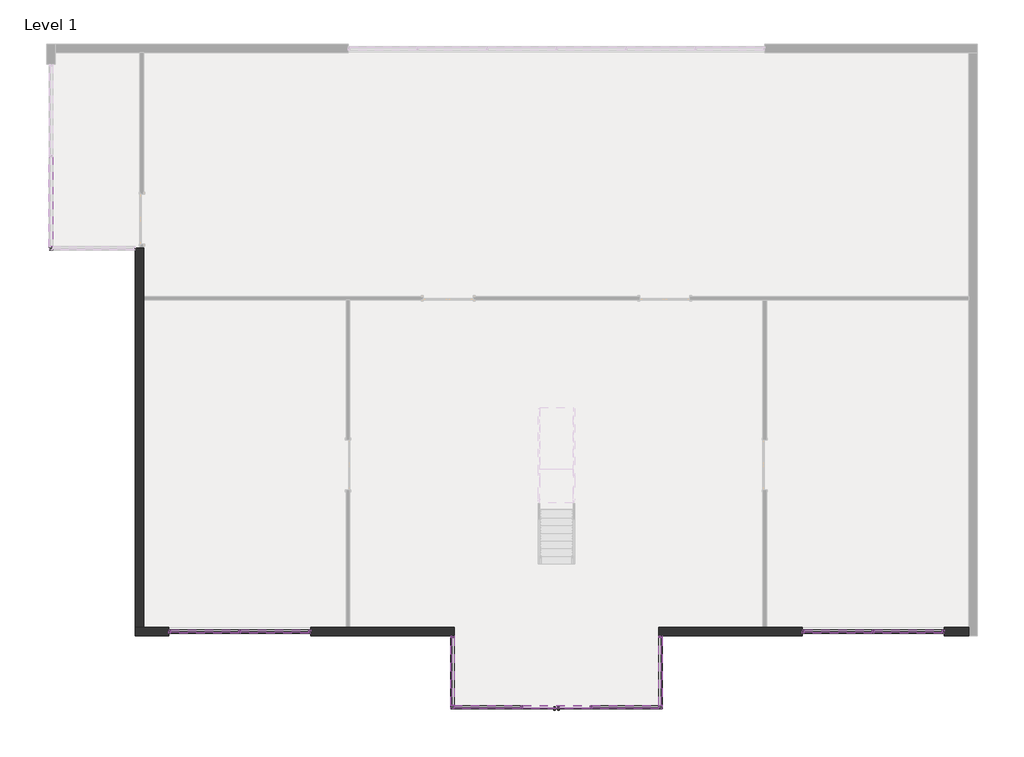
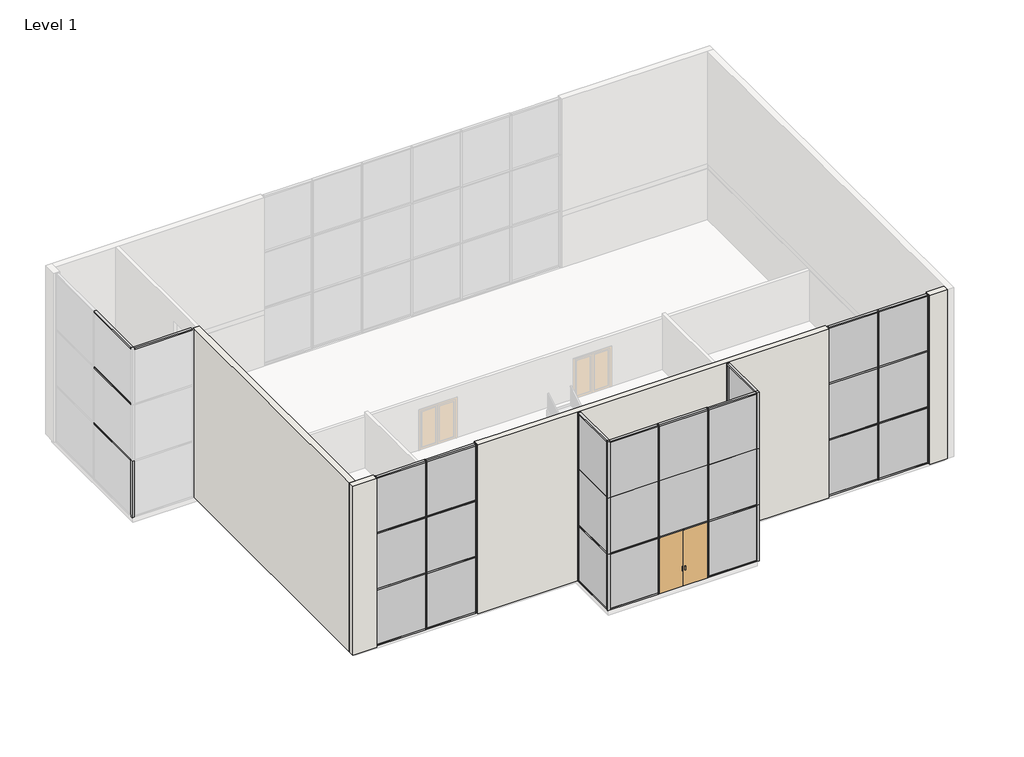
# One storey, part 1 of 3: 71 members, 26 plates, 2 walls, 1 door.
"""IFC4 building model written with IfcOpenShell, lengths in millimetres."""

from ifc_helpers import new_model, si_unit, origin, place, context, project, spatial, faceted_brep, transform, mapped, element, save
from components import m_curtain_wall_dbl_glass_m_curtain_wall_dbl_glass_65589565, member_092dde94, member_3b285806, member_887e70fb, member_3f395ae9, member_eaba9652, member_bd5c9510, member_6d1da0dd, member_11ed7e2d, member_605e1044, member_b6766b59, member_5ef46571, member_2d82c926, member_728bf22d, member_0c17b8a1, system_panel_glazed_dec8f576, system_panel_glazed_a2b5a2cd, system_panel_glazed_4b2e8b6a, system_panel_glazed_935986ee, system_panel_glazed_54eba105, system_panel_glazed_2b873caf, system_panel_glazed_5724f4ed, system_panel_glazed_d0cb5eef, system_panel_glazed_25cc98ba, system_panel_glazed_d8e6d469, system_panel_glazed_b25d086d, system_panel_glazed_057324e0

model = new_model("IFC4")

# Units and contexts
model_context = context("Model", 3, world=origin())
ifc_project = project(units=[si_unit("LENGTHUNIT", "METRE", prefix="MILLI")], contexts=[model_context])

# Site, building, storey
site = spatial("IfcSite", under=ifc_project)
building = spatial("IfcBuilding", under=site)
storey = spatial("IfcBuildingStorey", under=building, Name="Level 1", Elevation=0.0)

# Door
placement = place(None, origin())
m_curtain_wall_dbl_glass_m_curtain_wall_dbl_glass_shape = m_curtain_wall_dbl_glass_m_curtain_wall_dbl_glass_65589565(model_context)
element("IfcDoor", 1, ObjectType="M_Curtain Wall Dbl Glass : M_Curtain Wall Dbl Glass", at=placement, inside=storey, context=model_context, shape_type="MappedRepresentation", body=[
    mapped(m_curtain_wall_dbl_glass_m_curtain_wall_dbl_glass_shape, transform((-3088.917382, -8357.3516396, 0.0), x_axis=(-1.0, 0.0, 0.0), y_axis=(0.0, -1.0, 0.0), z_axis=(0.0, 0.0, 1.0))),
])

# Members
member_shape = member_092dde94(model_context)
element("IfcMember", 2, ObjectType="Quad Corner Mullion : 5\" x 5\" Quad Corner", at=placement, inside=storey, context=model_context, shape_type="MappedRepresentation", body=[
    mapped(member_shape, transform((-6898.917382, -8357.3516396, 0.0), x_axis=(-1.0, 0.0, 0.0), y_axis=(0.0, 1.0, 0.0), z_axis=(0.0, 0.0, -1.0))),
])
element("IfcMember", 3, ObjectType="Quad Corner Mullion : 5\" x 5\" Quad Corner", at=placement, inside=storey, context=model_context, shape_type="MappedRepresentation", body=[
    mapped(member_shape, transform((721.082618, -8357.3516396, 3048.0), x_axis=(1.0, 0.0, 0.0), y_axis=(0.0, 1.0, 0.0), z_axis=(0.0, 0.0, 1.0))),
])
element("IfcMember", 4, ObjectType="Quad Corner Mullion : 5\" x 5\" Quad Corner", at=placement, inside=storey, context=model_context, shape_type="MappedRepresentation", body=[
    mapped(member_shape, transform((-21580.117382, 8438.3983604, 0.0), x_axis=(-1.0, 0.0, 0.0), y_axis=(0.0, 1.0, 0.0), z_axis=(0.0, 0.0, -1.0))),
])
element("IfcMember", 5, ObjectType="Quad Corner Mullion : 5\" x 5\" Quad Corner", at=placement, inside=storey, context=model_context, shape_type="MappedRepresentation", body=[
    mapped(member_shape, transform((721.082618, -8357.3516396, 9144.0), x_axis=(1.0, 0.0, 0.0), y_axis=(0.0, 1.0, 0.0), z_axis=(0.0, 0.0, 1.0))),
])
element("IfcMember", 6, ObjectType="Quad Corner Mullion : 5\" x 5\" Quad Corner", at=placement, inside=storey, context=model_context, shape_type="MappedRepresentation", body=[
    mapped(member_shape, transform((-6898.917382, -8357.3516396, 3048.0), x_axis=(-1.0, 0.0, 0.0), y_axis=(0.0, 1.0, 0.0), z_axis=(0.0, 0.0, -1.0))),
])
element("IfcMember", 7, ObjectType="Quad Corner Mullion : 5\" x 5\" Quad Corner", at=placement, inside=storey, context=model_context, shape_type="MappedRepresentation", body=[
    mapped(member_shape, transform((721.082618, -8357.3516396, 6096.0), x_axis=(1.0, 0.0, 0.0), y_axis=(0.0, 1.0, 0.0), z_axis=(0.0, 0.0, 1.0))),
])
element("IfcMember", 8, ObjectType="Quad Corner Mullion : 5\" x 5\" Quad Corner", at=placement, inside=storey, context=model_context, shape_type="MappedRepresentation", body=[
    mapped(member_shape, transform((-6898.917382, -8357.3516396, 6096.0), x_axis=(-1.0, 0.0, 0.0), y_axis=(0.0, 1.0, 0.0), z_axis=(0.0, 0.0, -1.0))),
])
member_2_shape = member_3b285806(model_context)
element("IfcMember", 9, ObjectType="Rectangular Mullion : 2.5\" x 5\" rectangular", at=placement, inside=storey, context=model_context, shape_type="MappedRepresentation", body=[
    mapped(member_2_shape, transform((-6835.417382, -8357.3516396, 9144.0), x_axis=(0.0, 0.0, 1.0), y_axis=(0.0, 1.0, 0.0), z_axis=(-1.0, 0.0, 0.0))),
])
element("IfcMember", 10, ObjectType="Rectangular Mullion : 2.5\" x 5\" rectangular", at=placement, inside=storey, context=model_context, shape_type="MappedRepresentation", body=[
    mapped(member_2_shape, transform((-1787.1673821, -8357.3516396, 9144.0), x_axis=(0.0, 0.0, 1.0), y_axis=(0.0, 1.0, 0.0), z_axis=(-1.0, 0.0, 0.0))),
])
element("IfcMember", 11, ObjectType="Rectangular Mullion : 2.5\" x 5\" rectangular", at=placement, inside=storey, context=model_context, shape_type="MappedRepresentation", body=[
    mapped(member_2_shape, transform((657.582618, -8357.3516396, 0.0), x_axis=(0.0, 0.0, -1.0), y_axis=(0.0, 1.0, 0.0), z_axis=(1.0, 0.0, 0.0))),
])
element("IfcMember", 12, ObjectType="Rectangular Mullion : 2.5\" x 5\" rectangular", at=placement, inside=storey, context=model_context, shape_type="MappedRepresentation", body=[
    mapped(member_2_shape, transform((-4390.6673819, -8357.3516396, 0.0), x_axis=(0.0, 0.0, -1.0), y_axis=(0.0, 1.0, 0.0), z_axis=(1.0, 0.0, 0.0))),
])
member_3_shape = member_887e70fb(model_context)
element("IfcMember", 13, ObjectType="Rectangular Mullion : 2.5\" x 5\" rectangular", at=placement, inside=storey, context=model_context, shape_type="MappedRepresentation", body=[
    mapped(member_3_shape, transform((-4327.1673819, -8357.3516396, 9144.0), x_axis=(0.0, 0.0, 1.0), y_axis=(0.0, 1.0, 0.0), z_axis=(-1.0, 0.0, 0.0))),
])
member_4_shape = member_3f395ae9(model_context)
element("IfcMember", 14, ObjectType="Rectangular Mullion : 2.5\" x 5\" rectangular", at=placement, inside=storey, context=model_context, shape_type="MappedRepresentation", body=[
    mapped(member_4_shape, transform((-6898.917382, -5737.9766396, 0.0), x_axis=(0.0, 1.0, 0.0), y_axis=(1.0, 0.0, 0.0), z_axis=(0.0, 0.0, -1.0))),
])
element("IfcMember", 15, ObjectType="Rectangular Mullion : 2.5\" x 5\" rectangular", at=placement, inside=storey, context=model_context, shape_type="MappedRepresentation", body=[
    mapped(member_4_shape, transform((-17262.117382, -5582.4016396, 0.0), x_axis=(-1.0, 0.0, 0.0), y_axis=(0.0, 1.0, 0.0), z_axis=(0.0, 0.0, -1.0))),
])
element("IfcMember", 16, ObjectType="Rectangular Mullion : 2.5\" x 5\" rectangular", at=placement, inside=storey, context=model_context, shape_type="MappedRepresentation", body=[
    mapped(member_4_shape, transform((-17262.117382, -5582.4016396, 6096.0), x_axis=(-1.0, 0.0, 0.0), y_axis=(0.0, 1.0, 0.0), z_axis=(0.0, 0.0, -1.0))),
])
member_5_shape = member_eaba9652(model_context)
element("IfcMember", 17, ObjectType="Rectangular Mullion : 2.5\" x 5\" rectangular", at=placement, inside=storey, context=model_context, shape_type="MappedRepresentation", body=[
    mapped(member_5_shape, transform((-1818.9173821, -8357.3516396, 0.0), x_axis=(-1.0, 0.0, 0.0), y_axis=(0.0, 1.0, 0.0), z_axis=(0.0, 0.0, -1.0))),
])
element("IfcMember", 18, ObjectType="Rectangular Mullion : 2.5\" x 5\" rectangular", at=placement, inside=storey, context=model_context, shape_type="MappedRepresentation", body=[
    mapped(member_5_shape, transform((-4358.9173819, -8357.3516396, 0.0), x_axis=(-1.0, 0.0, 0.0), y_axis=(0.0, 1.0, 0.0), z_axis=(0.0, 0.0, -1.0))),
])
element("IfcMember", 19, ObjectType="Rectangular Mullion : 2.5\" x 5\" rectangular", at=placement, inside=storey, context=model_context, shape_type="MappedRepresentation", body=[
    mapped(member_5_shape, transform((-14671.317382, -5582.4016396, 0.0), x_axis=(-1.0, 0.0, 0.0), y_axis=(0.0, 1.0, 0.0), z_axis=(0.0, 0.0, -1.0))),
])
element("IfcMember", 20, ObjectType="Rectangular Mullion : 2.5\" x 5\" rectangular", at=placement, inside=storey, context=model_context, shape_type="MappedRepresentation", body=[
    mapped(member_5_shape, transform((-14671.317382, -5582.4016396, 6096.0), x_axis=(-1.0, 0.0, 0.0), y_axis=(0.0, 1.0, 0.0), z_axis=(0.0, 0.0, -1.0))),
])
member_6_shape = member_bd5c9510(model_context)
element("IfcMember", 21, ObjectType="Rectangular Mullion : 2.5\" x 5\" rectangular", at=placement, inside=storey, context=model_context, shape_type="MappedRepresentation", body=[
    mapped(member_6_shape, transform((-6835.417382, -8357.3516396, 3048.0), x_axis=(0.0, 0.0, 1.0), y_axis=(0.0, 1.0, 0.0), z_axis=(-1.0, 0.0, 0.0))),
])
element("IfcMember", 22, ObjectType="Rectangular Mullion : 2.5\" x 5\" rectangular", at=placement, inside=storey, context=model_context, shape_type="MappedRepresentation", body=[
    mapped(member_6_shape, transform((-1787.1673821, -8357.3516396, 3048.0), x_axis=(0.0, 0.0, 1.0), y_axis=(0.0, 1.0, 0.0), z_axis=(-1.0, 0.0, 0.0))),
])
member_7_shape = member_6d1da0dd(model_context)
element("IfcMember", 23, ObjectType="Rectangular Mullion : 2.5\" x 5\" rectangular", at=placement, inside=storey, context=model_context, shape_type="MappedRepresentation", body=[
    mapped(member_7_shape, transform((-4327.1673819, -8357.3516396, 3048.0), x_axis=(0.0, 0.0, 1.0), y_axis=(0.0, 1.0, 0.0), z_axis=(-1.0, 0.0, 0.0))),
])
element("IfcMember", 24, ObjectType="Rectangular Mullion : 2.5\" x 5\" rectangular", at=placement, inside=storey, context=model_context, shape_type="MappedRepresentation", body=[
    mapped(member_4_shape, transform((-12080.517382, -5582.4016396, 9144.0), x_axis=(1.0, 0.0, 0.0), y_axis=(0.0, 1.0, 0.0), z_axis=(0.0, 0.0, 1.0))),
])
element("IfcMember", 25, ObjectType="Rectangular Mullion : 2.5\" x 5\" rectangular", at=placement, inside=storey, context=model_context, shape_type="MappedRepresentation", body=[
    mapped(member_4_shape, transform((721.082618, -5737.9766396, 3048.0), x_axis=(0.0, 1.0, 0.0), y_axis=(-1.0, 0.0, 0.0), z_axis=(0.0, 0.0, 1.0))),
])
element("IfcMember", 26, ObjectType="Rectangular Mullion : 2.5\" x 5\" rectangular", at=placement, inside=storey, context=model_context, shape_type="MappedRepresentation", body=[
    mapped(member_4_shape, transform((-12080.517382, -5582.4016396, 3048.0), x_axis=(1.0, 0.0, 0.0), y_axis=(0.0, 1.0, 0.0), z_axis=(0.0, 0.0, 1.0))),
])
element("IfcMember", 27, ObjectType="Rectangular Mullion : 2.5\" x 5\" rectangular", at=placement, inside=storey, context=model_context, shape_type="MappedRepresentation", body=[
    mapped(member_5_shape, transform((8493.482618, -5582.4016396, 0.0), x_axis=(1.0, 0.0, 0.0), y_axis=(0.0, -1.0, 0.0), z_axis=(0.0, 0.0, -1.0))),
])
element("IfcMember", 28, ObjectType="Rectangular Mullion : 2.5\" x 5\" rectangular", at=placement, inside=storey, context=model_context, shape_type="MappedRepresentation", body=[
    mapped(member_5_shape, transform((8493.482618, -5582.4016396, 3048.0), x_axis=(1.0, 0.0, 0.0), y_axis=(0.0, -1.0, 0.0), z_axis=(0.0, 0.0, -1.0))),
])
element("IfcMember", 29, ObjectType="Rectangular Mullion : 2.5\" x 5\" rectangular", at=placement, inside=storey, context=model_context, shape_type="MappedRepresentation", body=[
    mapped(member_5_shape, transform((8493.482618, -5582.4016396, 6096.0), x_axis=(1.0, 0.0, 0.0), y_axis=(0.0, -1.0, 0.0), z_axis=(0.0, 0.0, -1.0))),
])
element("IfcMember", 30, ObjectType="Rectangular Mullion : 2.5\" x 5\" rectangular", at=placement, inside=storey, context=model_context, shape_type="MappedRepresentation", body=[
    mapped(member_4_shape, transform((5902.682618, -5582.4016396, 9144.0), x_axis=(-1.0, 0.0, 0.0), y_axis=(0.0, -1.0, 0.0), z_axis=(0.0, 0.0, 1.0))),
])
element("IfcMember", 31, ObjectType="Rectangular Mullion : 2.5\" x 5\" rectangular", at=placement, inside=storey, context=model_context, shape_type="MappedRepresentation", body=[
    mapped(member_4_shape, transform((11084.282618, -5582.4016396, 0.0), x_axis=(1.0, 0.0, 0.0), y_axis=(0.0, -1.0, 0.0), z_axis=(0.0, 0.0, -1.0))),
])
element("IfcMember", 32, ObjectType="Rectangular Mullion : 2.5\" x 5\" rectangular", at=placement, inside=storey, context=model_context, shape_type="MappedRepresentation", body=[
    mapped(member_4_shape, transform((11084.282618, -5582.4016396, 3048.0), x_axis=(1.0, 0.0, 0.0), y_axis=(0.0, -1.0, 0.0), z_axis=(0.0, 0.0, -1.0))),
])
element("IfcMember", 33, ObjectType="Rectangular Mullion : 2.5\" x 5\" rectangular", at=placement, inside=storey, context=model_context, shape_type="MappedRepresentation", body=[
    mapped(member_4_shape, transform((11084.282618, -5582.4016396, 6096.0), x_axis=(1.0, 0.0, 0.0), y_axis=(0.0, -1.0, 0.0), z_axis=(0.0, 0.0, -1.0))),
])
element("IfcMember", 34, ObjectType="Rectangular Mullion : 2.5\" x 5\" rectangular", at=placement, inside=storey, context=model_context, shape_type="MappedRepresentation", body=[
    mapped(member_4_shape, transform((5902.682618, -5582.4016396, 3048.0), x_axis=(-1.0, 0.0, 0.0), y_axis=(0.0, -1.0, 0.0), z_axis=(0.0, 0.0, 1.0))),
])
element("IfcMember", 35, ObjectType="Rectangular Mullion : 2.5\" x 5\" rectangular", at=placement, inside=storey, context=model_context, shape_type="MappedRepresentation", body=[
    mapped(member_4_shape, transform((5902.682618, -5582.4016396, 6096.0), x_axis=(-1.0, 0.0, 0.0), y_axis=(0.0, -1.0, 0.0), z_axis=(0.0, 0.0, 1.0))),
])
member_8_shape = member_11ed7e2d(model_context)
element("IfcMember", 36, ObjectType="Rectangular Mullion : 2.5\" x 5\" rectangular", at=placement, inside=storey, context=model_context, shape_type="MappedRepresentation", body=[
    mapped(member_8_shape, transform((-6898.917382, -5801.4766396, 9144.0), x_axis=(0.0, 0.0, 1.0), y_axis=(1.0, 0.0, 0.0), z_axis=(0.0, 1.0, 0.0))),
])
element("IfcMember", 37, ObjectType="Rectangular Mullion : 2.5\" x 5\" rectangular", at=placement, inside=storey, context=model_context, shape_type="MappedRepresentation", body=[
    mapped(member_8_shape, transform((721.082618, -8293.8516396, 9144.0), x_axis=(0.0, 0.0, 1.0), y_axis=(-1.0, 0.0, 0.0), z_axis=(0.0, -1.0, 0.0))),
])
element("IfcMember", 38, ObjectType="Rectangular Mullion : 2.5\" x 5\" rectangular", at=placement, inside=storey, context=model_context, shape_type="MappedRepresentation", body=[
    mapped(member_8_shape, transform((-6898.917382, -8293.8516396, 0.0), x_axis=(0.0, 0.0, -1.0), y_axis=(1.0, 0.0, 0.0), z_axis=(0.0, -1.0, 0.0))),
])
element("IfcMember", 39, ObjectType="Rectangular Mullion : 2.5\" x 5\" rectangular", at=placement, inside=storey, context=model_context, shape_type="MappedRepresentation", body=[
    mapped(member_8_shape, transform((721.082618, -5801.4766396, 0.0), x_axis=(0.0, 0.0, -1.0), y_axis=(-1.0, 0.0, 0.0), z_axis=(0.0, 1.0, 0.0))),
])
member_9_shape = member_605e1044(model_context)
element("IfcMember", 40, ObjectType="Rectangular Mullion : 2.5\" x 5\" rectangular", at=placement, inside=storey, context=model_context, shape_type="MappedRepresentation", body=[
    mapped(member_9_shape, transform((-6898.917382, -5801.4766396, 3048.0), x_axis=(0.0, 0.0, 1.0), y_axis=(1.0, 0.0, 0.0), z_axis=(0.0, 1.0, 0.0))),
])
element("IfcMember", 41, ObjectType="Rectangular Mullion : 2.5\" x 5\" rectangular", at=placement, inside=storey, context=model_context, shape_type="MappedRepresentation", body=[
    mapped(member_9_shape, transform((721.082618, -8293.8516396, 3048.0), x_axis=(0.0, 0.0, 1.0), y_axis=(-1.0, 0.0, 0.0), z_axis=(0.0, -1.0, 0.0))),
])
member_10_shape = member_b6766b59(model_context)
element("IfcMember", 42, ObjectType="Rectangular Mullion : 2.5\" x 5\" rectangular", at=placement, inside=storey, context=model_context, shape_type="MappedRepresentation", body=[
    mapped(member_10_shape, transform((-17198.617382, -5582.4016396, 9144.0), x_axis=(0.0, 0.0, 1.0), y_axis=(0.0, 1.0, 0.0), z_axis=(-1.0, 0.0, 0.0))),
])
element("IfcMember", 43, ObjectType="Rectangular Mullion : 2.5\" x 5\" rectangular", at=placement, inside=storey, context=model_context, shape_type="MappedRepresentation", body=[
    mapped(member_10_shape, transform((-14639.567382, -5582.4016396, 9144.0), x_axis=(0.0, 0.0, 1.0), y_axis=(0.0, 1.0, 0.0), z_axis=(-1.0, 0.0, 0.0))),
])
element("IfcMember", 44, ObjectType="Rectangular Mullion : 2.5\" x 5\" rectangular", at=placement, inside=storey, context=model_context, shape_type="MappedRepresentation", body=[
    mapped(member_10_shape, transform((-12144.017382, -5582.4016396, 0.0), x_axis=(0.0, 0.0, -1.0), y_axis=(0.0, 1.0, 0.0), z_axis=(1.0, 0.0, 0.0))),
])
element("IfcMember", 45, ObjectType="Rectangular Mullion : 2.5\" x 5\" rectangular", at=placement, inside=storey, context=model_context, shape_type="MappedRepresentation", body=[
    mapped(member_10_shape, transform((-14703.067382, -5582.4016396, 0.0), x_axis=(0.0, 0.0, -1.0), y_axis=(0.0, 1.0, 0.0), z_axis=(1.0, 0.0, 0.0))),
])
member_11_shape = member_5ef46571(model_context)
element("IfcMember", 46, ObjectType="Rectangular Mullion : 2.5\" x 5\" rectangular", at=placement, inside=storey, context=model_context, shape_type="MappedRepresentation", body=[
    mapped(member_11_shape, transform((-14639.567382, -5582.4016396, 3048.0), x_axis=(0.0, 0.0, 1.0), y_axis=(0.0, 1.0, 0.0), z_axis=(-1.0, 0.0, 0.0))),
])
element("IfcMember", 47, ObjectType="Rectangular Mullion : 2.5\" x 5\" rectangular", at=placement, inside=storey, context=model_context, shape_type="MappedRepresentation", body=[
    mapped(member_11_shape, transform((-17198.617382, -5582.4016396, 3048.0), x_axis=(0.0, 0.0, 1.0), y_axis=(0.0, 1.0, 0.0), z_axis=(-1.0, 0.0, 0.0))),
])
element("IfcMember", 48, ObjectType="Rectangular Mullion : 2.5\" x 5\" rectangular", at=placement, inside=storey, context=model_context, shape_type="MappedRepresentation", body=[
    mapped(member_11_shape, transform((-14639.567382, -5582.4016396, 6096.0), x_axis=(0.0, 0.0, 1.0), y_axis=(0.0, 1.0, 0.0), z_axis=(-1.0, 0.0, 0.0))),
])
element("IfcMember", 49, ObjectType="Rectangular Mullion : 2.5\" x 5\" rectangular", at=placement, inside=storey, context=model_context, shape_type="MappedRepresentation", body=[
    mapped(member_11_shape, transform((-17198.617382, -5582.4016396, 6096.0), x_axis=(0.0, 0.0, 1.0), y_axis=(0.0, 1.0, 0.0), z_axis=(-1.0, 0.0, 0.0))),
])
element("IfcMember", 50, ObjectType="Rectangular Mullion : 2.5\" x 5\" rectangular", at=placement, inside=storey, context=model_context, shape_type="MappedRepresentation", body=[
    mapped(member_5_shape, transform((-14671.317382, -5582.4016396, 3048.0), x_axis=(-1.0, 0.0, 0.0), y_axis=(0.0, 1.0, 0.0), z_axis=(0.0, 0.0, -1.0))),
])
element("IfcMember", 51, ObjectType="Rectangular Mullion : 2.5\" x 5\" rectangular", at=placement, inside=storey, context=model_context, shape_type="MappedRepresentation", body=[
    mapped(member_4_shape, transform((-17262.117382, -5582.4016396, 3048.0), x_axis=(-1.0, 0.0, 0.0), y_axis=(0.0, 1.0, 0.0), z_axis=(0.0, 0.0, -1.0))),
])
element("IfcMember", 52, ObjectType="Rectangular Mullion : 2.5\" x 5\" rectangular", at=placement, inside=storey, context=model_context, shape_type="MappedRepresentation", body=[
    mapped(member_4_shape, transform((-12080.517382, -5582.4016396, 6096.0), x_axis=(1.0, 0.0, 0.0), y_axis=(0.0, 1.0, 0.0), z_axis=(0.0, 0.0, 1.0))),
])
element("IfcMember", 53, ObjectType="Rectangular Mullion : 2.5\" x 5\" rectangular", at=placement, inside=storey, context=model_context, shape_type="MappedRepresentation", body=[
    mapped(member_10_shape, transform((11020.782618, -5582.4016396, 9144.0), x_axis=(0.0, 0.0, 1.0), y_axis=(0.0, -1.0, 0.0), z_axis=(1.0, 0.0, 0.0))),
])
element("IfcMember", 54, ObjectType="Rectangular Mullion : 2.5\" x 5\" rectangular", at=placement, inside=storey, context=model_context, shape_type="MappedRepresentation", body=[
    mapped(member_10_shape, transform((8461.732618, -5582.4016396, 9144.0), x_axis=(0.0, 0.0, 1.0), y_axis=(0.0, -1.0, 0.0), z_axis=(1.0, 0.0, 0.0))),
])
element("IfcMember", 55, ObjectType="Rectangular Mullion : 2.5\" x 5\" rectangular", at=placement, inside=storey, context=model_context, shape_type="MappedRepresentation", body=[
    mapped(member_10_shape, transform((5966.182618, -5582.4016396, 0.0), x_axis=(0.0, 0.0, -1.0), y_axis=(0.0, -1.0, 0.0), z_axis=(-1.0, 0.0, 0.0))),
])
element("IfcMember", 56, ObjectType="Rectangular Mullion : 2.5\" x 5\" rectangular", at=placement, inside=storey, context=model_context, shape_type="MappedRepresentation", body=[
    mapped(member_10_shape, transform((8525.232618, -5582.4016396, 0.0), x_axis=(0.0, 0.0, -1.0), y_axis=(0.0, -1.0, 0.0), z_axis=(-1.0, 0.0, 0.0))),
])
element("IfcMember", 57, ObjectType="Rectangular Mullion : 2.5\" x 5\" rectangular", at=placement, inside=storey, context=model_context, shape_type="MappedRepresentation", body=[
    mapped(member_11_shape, transform((8461.732618, -5582.4016396, 3048.0), x_axis=(0.0, 0.0, 1.0), y_axis=(0.0, -1.0, 0.0), z_axis=(1.0, 0.0, 0.0))),
])
element("IfcMember", 58, ObjectType="Rectangular Mullion : 2.5\" x 5\" rectangular", at=placement, inside=storey, context=model_context, shape_type="MappedRepresentation", body=[
    mapped(member_11_shape, transform((11020.782618, -5582.4016396, 3048.0), x_axis=(0.0, 0.0, 1.0), y_axis=(0.0, -1.0, 0.0), z_axis=(1.0, 0.0, 0.0))),
])
element("IfcMember", 59, ObjectType="Rectangular Mullion : 2.5\" x 5\" rectangular", at=placement, inside=storey, context=model_context, shape_type="MappedRepresentation", body=[
    mapped(member_11_shape, transform((8461.732618, -5582.4016396, 6096.0), x_axis=(0.0, 0.0, 1.0), y_axis=(0.0, -1.0, 0.0), z_axis=(1.0, 0.0, 0.0))),
])
element("IfcMember", 60, ObjectType="Rectangular Mullion : 2.5\" x 5\" rectangular", at=placement, inside=storey, context=model_context, shape_type="MappedRepresentation", body=[
    mapped(member_11_shape, transform((11020.782618, -5582.4016396, 6096.0), x_axis=(0.0, 0.0, 1.0), y_axis=(0.0, -1.0, 0.0), z_axis=(1.0, 0.0, 0.0))),
])
member_12_shape = member_2d82c926(model_context)
element("IfcMember", 61, ObjectType="Rectangular Mullion : 2.5\" x 5\" rectangular", at=placement, inside=storey, context=model_context, shape_type="MappedRepresentation", body=[
    mapped(member_12_shape, transform((-21580.117382, 8501.8983604, 9144.0), x_axis=(0.0, 0.0, 1.0), y_axis=(-1.0, 0.0, 0.0), z_axis=(0.0, -1.0, 0.0))),
])
member_13_shape = member_728bf22d(model_context)
element("IfcMember", 62, ObjectType="Rectangular Mullion : 2.5\" x 5\" rectangular", at=placement, inside=storey, context=model_context, shape_type="MappedRepresentation", body=[
    mapped(member_13_shape, transform((-21580.117382, 8501.8983604, 3048.0), x_axis=(0.0, 0.0, 1.0), y_axis=(-1.0, 0.0, 0.0), z_axis=(0.0, -1.0, 0.0))),
])
element("IfcMember", 63, ObjectType="Rectangular Mullion : 2.5\" x 5\" rectangular", at=placement, inside=storey, context=model_context, shape_type="MappedRepresentation", body=[
    mapped(member_13_shape, transform((-21580.117382, 8501.8983604, 6096.0), x_axis=(0.0, 0.0, 1.0), y_axis=(-1.0, 0.0, 0.0), z_axis=(0.0, -1.0, 0.0))),
])
member_14_shape = member_0c17b8a1(model_context)
element("IfcMember", 64, ObjectType="Rectangular Mullion : 2.5\" x 5\" rectangular", at=placement, inside=storey, context=model_context, shape_type="MappedRepresentation", body=[
    mapped(member_14_shape, transform((-21516.617382, 8438.3983604, 9144.0), x_axis=(0.0, 0.0, 1.0), y_axis=(0.0, 1.0, 0.0), z_axis=(-1.0, 0.0, 0.0))),
])
element("IfcMember", 65, ObjectType="Rectangular Mullion : 2.5\" x 5\" rectangular", at=placement, inside=storey, context=model_context, shape_type="MappedRepresentation", body=[
    mapped(member_5_shape, transform((-1818.9173821, -8357.3516396, 3048.0), x_axis=(-1.0, 0.0, 0.0), y_axis=(0.0, 1.0, 0.0), z_axis=(0.0, 0.0, -1.0))),
])
element("IfcMember", 66, ObjectType="Rectangular Mullion : 2.5\" x 5\" rectangular", at=placement, inside=storey, context=model_context, shape_type="MappedRepresentation", body=[
    mapped(member_5_shape, transform((-4358.9173819, -8357.3516396, 3048.0), x_axis=(-1.0, 0.0, 0.0), y_axis=(0.0, 1.0, 0.0), z_axis=(0.0, 0.0, -1.0))),
])
element("IfcMember", 67, ObjectType="Rectangular Mullion : 2.5\" x 5\" rectangular", at=placement, inside=storey, context=model_context, shape_type="MappedRepresentation", body=[
    mapped(member_5_shape, transform((-1818.9173821, -8357.3516396, 6096.0), x_axis=(-1.0, 0.0, 0.0), y_axis=(0.0, 1.0, 0.0), z_axis=(0.0, 0.0, -1.0))),
])
element("IfcMember", 68, ObjectType="Rectangular Mullion : 2.5\" x 5\" rectangular", at=placement, inside=storey, context=model_context, shape_type="MappedRepresentation", body=[
    mapped(member_5_shape, transform((-4358.9173819, -8357.3516396, 6096.0), x_axis=(-1.0, 0.0, 0.0), y_axis=(0.0, 1.0, 0.0), z_axis=(0.0, 0.0, -1.0))),
])
element("IfcMember", 69, ObjectType="Rectangular Mullion : 2.5\" x 5\" rectangular", at=placement, inside=storey, context=model_context, shape_type="MappedRepresentation", body=[
    mapped(member_4_shape, transform((721.082618, -5737.9766396, 9144.0), x_axis=(0.0, 1.0, 0.0), y_axis=(-1.0, 0.0, 0.0), z_axis=(0.0, 0.0, 1.0))),
])
element("IfcMember", 70, ObjectType="Rectangular Mullion : 2.5\" x 5\" rectangular", at=placement, inside=storey, context=model_context, shape_type="MappedRepresentation", body=[
    mapped(member_4_shape, transform((-6898.917382, -5737.9766396, 3048.0), x_axis=(0.0, 1.0, 0.0), y_axis=(1.0, 0.0, 0.0), z_axis=(0.0, 0.0, -1.0))),
])
element("IfcMember", 71, ObjectType="Rectangular Mullion : 2.5\" x 5\" rectangular", at=placement, inside=storey, context=model_context, shape_type="MappedRepresentation", body=[
    mapped(member_4_shape, transform((721.082618, -5737.9766396, 6096.0), x_axis=(0.0, 1.0, 0.0), y_axis=(-1.0, 0.0, 0.0), z_axis=(0.0, 0.0, 1.0))),
])
element("IfcMember", 72, ObjectType="Rectangular Mullion : 2.5\" x 5\" rectangular", at=placement, inside=storey, context=model_context, shape_type="MappedRepresentation", body=[
    mapped(member_4_shape, transform((-6898.917382, -5737.9766396, 6096.0), x_axis=(0.0, 1.0, 0.0), y_axis=(1.0, 0.0, 0.0), z_axis=(0.0, 0.0, -1.0))),
])

# Plates
system_panel_glazed_shape = system_panel_glazed_dec8f576(model_context)
element("IfcPlate", 73, ObjectType="System Panel : Glazed", at=placement, inside=storey, context=model_context, shape_type="MappedRepresentation", body=[
    mapped(system_panel_glazed_shape, transform((-564.792382, -8357.3516396, 63.5), x_axis=(-1.0, 0.0, 0.0), y_axis=(0.0, -1.0, 0.0), z_axis=(0.0, 0.0, 1.0))),
])
element("IfcPlate", 74, ObjectType="System Panel : Glazed", at=placement, inside=storey, context=model_context, shape_type="MappedRepresentation", body=[
    mapped(system_panel_glazed_shape, transform((-5613.0423819, -8357.3516396, 63.5), x_axis=(-1.0, 0.0, 0.0), y_axis=(0.0, -1.0, 0.0), z_axis=(0.0, 0.0, 1.0))),
])
system_panel_glazed_2_shape = system_panel_glazed_a2b5a2cd(model_context)
element("IfcPlate", 75, ObjectType="System Panel : Glazed", at=placement, inside=storey, context=model_context, shape_type="MappedRepresentation", body=[
    mapped(system_panel_glazed_2_shape, transform((721.082618, -7047.6641396, 63.5), x_axis=(0.0, -1.0, 0.0), y_axis=(1.0, 0.0, 0.0), z_axis=(0.0, 0.0, 1.0))),
])
element("IfcPlate", 76, ObjectType="System Panel : Glazed", at=placement, inside=storey, context=model_context, shape_type="MappedRepresentation", body=[
    mapped(system_panel_glazed_2_shape, transform((-6898.917382, -7047.6641396, 63.5), x_axis=(0.0, 1.0, 0.0), y_axis=(-1.0, 0.0, 0.0), z_axis=(0.0, 0.0, 1.0))),
])
system_panel_glazed_3_shape = system_panel_glazed_4b2e8b6a(model_context)
element("IfcPlate", 77, ObjectType="System Panel : Glazed", at=placement, inside=storey, context=model_context, shape_type="MappedRepresentation", body=[
    mapped(system_panel_glazed_3_shape, transform((-13391.792382, -5582.4016396, 63.5), x_axis=(-1.0, 0.0, 0.0), y_axis=(0.0, -1.0, 0.0), z_axis=(0.0, 0.0, 1.0))),
])
element("IfcPlate", 78, ObjectType="System Panel : Glazed", at=placement, inside=storey, context=model_context, shape_type="MappedRepresentation", body=[
    mapped(system_panel_glazed_3_shape, transform((-15950.842382, -5582.4016396, 63.5), x_axis=(-1.0, 0.0, 0.0), y_axis=(0.0, -1.0, 0.0), z_axis=(0.0, 0.0, 1.0))),
])
element("IfcPlate", 79, ObjectType="System Panel : Glazed", at=placement, inside=storey, context=model_context, shape_type="MappedRepresentation", body=[
    mapped(system_panel_glazed_3_shape, transform((-13391.792382, -5582.4016396, 6127.75), x_axis=(-1.0, 0.0, 0.0), y_axis=(0.0, -1.0, 0.0), z_axis=(0.0, 0.0, 1.0))),
])
element("IfcPlate", 80, ObjectType="System Panel : Glazed", at=placement, inside=storey, context=model_context, shape_type="MappedRepresentation", body=[
    mapped(system_panel_glazed_3_shape, transform((-15950.842382, -5582.4016396, 6127.75), x_axis=(-1.0, 0.0, 0.0), y_axis=(0.0, -1.0, 0.0), z_axis=(0.0, 0.0, 1.0))),
])
system_panel_glazed_4_shape = system_panel_glazed_935986ee(model_context)
element("IfcPlate", 81, ObjectType="System Panel : Glazed", at=placement, inside=storey, context=model_context, shape_type="MappedRepresentation", body=[
    mapped(system_panel_glazed_4_shape, transform((-13391.792382, -5582.4016396, 3079.75), x_axis=(-1.0, 0.0, 0.0), y_axis=(0.0, -1.0, 0.0), z_axis=(0.0, 0.0, 1.0))),
])
element("IfcPlate", 82, ObjectType="System Panel : Glazed", at=placement, inside=storey, context=model_context, shape_type="MappedRepresentation", body=[
    mapped(system_panel_glazed_4_shape, transform((-15950.842382, -5582.4016396, 3079.75), x_axis=(-1.0, 0.0, 0.0), y_axis=(0.0, -1.0, 0.0), z_axis=(0.0, 0.0, 1.0))),
])
system_panel_glazed_5_shape = system_panel_glazed_54eba105(model_context)
element("IfcPlate", 83, ObjectType="System Panel : Glazed", at=placement, inside=storey, context=model_context, shape_type="MappedRepresentation", body=[
    mapped(system_panel_glazed_5_shape, transform((7213.957618, -5582.4016396, 63.5), x_axis=(1.0, 0.0, 0.0), y_axis=(0.0, 1.0, 0.0), z_axis=(0.0, 0.0, 1.0))),
])
element("IfcPlate", 84, ObjectType="System Panel : Glazed", at=placement, inside=storey, context=model_context, shape_type="MappedRepresentation", body=[
    mapped(system_panel_glazed_5_shape, transform((9773.007618, -5582.4016396, 63.5), x_axis=(1.0, 0.0, 0.0), y_axis=(0.0, 1.0, 0.0), z_axis=(0.0, 0.0, 1.0))),
])
element("IfcPlate", 85, ObjectType="System Panel : Glazed", at=placement, inside=storey, context=model_context, shape_type="MappedRepresentation", body=[
    mapped(system_panel_glazed_5_shape, transform((7213.957618, -5582.4016396, 6127.75), x_axis=(1.0, 0.0, 0.0), y_axis=(0.0, 1.0, 0.0), z_axis=(0.0, 0.0, 1.0))),
])
element("IfcPlate", 86, ObjectType="System Panel : Glazed", at=placement, inside=storey, context=model_context, shape_type="MappedRepresentation", body=[
    mapped(system_panel_glazed_5_shape, transform((9773.007618, -5582.4016396, 6127.75), x_axis=(1.0, 0.0, 0.0), y_axis=(0.0, 1.0, 0.0), z_axis=(0.0, 0.0, 1.0))),
])
system_panel_glazed_6_shape = system_panel_glazed_2b873caf(model_context)
element("IfcPlate", 87, ObjectType="System Panel : Glazed", at=placement, inside=storey, context=model_context, shape_type="MappedRepresentation", body=[
    mapped(system_panel_glazed_6_shape, transform((7213.957618, -5582.4016396, 3079.75), x_axis=(1.0, 0.0, 0.0), y_axis=(0.0, 1.0, 0.0), z_axis=(0.0, 0.0, 1.0))),
])
element("IfcPlate", 88, ObjectType="System Panel : Glazed", at=placement, inside=storey, context=model_context, shape_type="MappedRepresentation", body=[
    mapped(system_panel_glazed_6_shape, transform((9773.007618, -5582.4016396, 3079.75), x_axis=(1.0, 0.0, 0.0), y_axis=(0.0, 1.0, 0.0), z_axis=(0.0, 0.0, 1.0))),
])
system_panel_glazed_7_shape = system_panel_glazed_5724f4ed(model_context)
element("IfcPlate", 89, ObjectType="System Panel : Glazed", at=placement, inside=storey, context=model_context, shape_type="MappedRepresentation", body=[
    mapped(system_panel_glazed_7_shape, transform((-3088.917382, -8357.3516396, 3079.75), x_axis=(-1.0, 0.0, 0.0), y_axis=(0.0, -1.0, 0.0), z_axis=(0.0, 0.0, 1.0))),
])
system_panel_glazed_8_shape = system_panel_glazed_d0cb5eef(model_context)
element("IfcPlate", 90, ObjectType="System Panel : Glazed", at=placement, inside=storey, context=model_context, shape_type="MappedRepresentation", body=[
    mapped(system_panel_glazed_8_shape, transform((-564.792382, -8357.3516396, 3079.75), x_axis=(-1.0, 0.0, 0.0), y_axis=(0.0, -1.0, 0.0), z_axis=(0.0, 0.0, 1.0))),
])
element("IfcPlate", 91, ObjectType="System Panel : Glazed", at=placement, inside=storey, context=model_context, shape_type="MappedRepresentation", body=[
    mapped(system_panel_glazed_8_shape, transform((-5613.0423819, -8357.3516396, 3079.75), x_axis=(-1.0, 0.0, 0.0), y_axis=(0.0, -1.0, 0.0), z_axis=(0.0, 0.0, 1.0))),
])
system_panel_glazed_9_shape = system_panel_glazed_25cc98ba(model_context)
element("IfcPlate", 92, ObjectType="System Panel : Glazed", at=placement, inside=storey, context=model_context, shape_type="MappedRepresentation", body=[
    mapped(system_panel_glazed_9_shape, transform((-3088.917382, -8357.3516396, 6096.0), x_axis=(-1.0, 0.0, 0.0), y_axis=(0.0, -1.0, 0.0), z_axis=(0.0, 0.0, 1.0))),
])
system_panel_glazed_10_shape = system_panel_glazed_d8e6d469(model_context)
element("IfcPlate", 93, ObjectType="System Panel : Glazed", at=placement, inside=storey, context=model_context, shape_type="MappedRepresentation", body=[
    mapped(system_panel_glazed_10_shape, transform((721.082618, -7047.6641396, 3079.75), x_axis=(0.0, -1.0, 0.0), y_axis=(1.0, 0.0, 0.0), z_axis=(0.0, 0.0, 1.0))),
])
element("IfcPlate", 94, ObjectType="System Panel : Glazed", at=placement, inside=storey, context=model_context, shape_type="MappedRepresentation", body=[
    mapped(system_panel_glazed_10_shape, transform((-6898.917382, -7047.6641396, 3079.75), x_axis=(0.0, 1.0, 0.0), y_axis=(-1.0, 0.0, 0.0), z_axis=(0.0, 0.0, 1.0))),
])
system_panel_glazed_11_shape = system_panel_glazed_b25d086d(model_context)
element("IfcPlate", 95, ObjectType="System Panel : Glazed", at=placement, inside=storey, context=model_context, shape_type="MappedRepresentation", body=[
    mapped(system_panel_glazed_11_shape, transform((721.082618, -7047.6641396, 6096.0), x_axis=(0.0, -1.0, 0.0), y_axis=(1.0, 0.0, 0.0), z_axis=(0.0, 0.0, 1.0))),
])
element("IfcPlate", 96, ObjectType="System Panel : Glazed", at=placement, inside=storey, context=model_context, shape_type="MappedRepresentation", body=[
    mapped(system_panel_glazed_11_shape, transform((-6898.917382, -7047.6641396, 6096.0), x_axis=(0.0, 1.0, 0.0), y_axis=(-1.0, 0.0, 0.0), z_axis=(0.0, 0.0, 1.0))),
])
system_panel_glazed_12_shape = system_panel_glazed_057324e0(model_context)
element("IfcPlate", 97, ObjectType="System Panel : Glazed", at=placement, inside=storey, context=model_context, shape_type="MappedRepresentation", body=[
    mapped(system_panel_glazed_12_shape, transform((-564.792382, -8357.3516396, 6096.0), x_axis=(-1.0, 0.0, 0.0), y_axis=(0.0, -1.0, 0.0), z_axis=(0.0, 0.0, 1.0))),
])
element("IfcPlate", 98, ObjectType="System Panel : Glazed", at=placement, inside=storey, context=model_context, shape_type="MappedRepresentation", body=[
    mapped(system_panel_glazed_12_shape, transform((-5613.0423819, -8357.3516396, 6096.0), x_axis=(-1.0, 0.0, 0.0), y_axis=(0.0, -1.0, 0.0), z_axis=(0.0, 0.0, 1.0))),
])

# Walls
element("IfcWall", 99, ObjectType="Exterior - EIFS on Mtl. Stud", at=placement, inside=storey, context=model_context, shape_type="Brep", body=[
    faceted_brep([(-18484.492382, -5426.8266396, 0.0), (-18484.492382, -5426.8266396, 9144.0), (-18173.342382, -5426.8266396, 9144.0), (-17262.117382, -5426.8266396, 9144.0), (-17262.117382, -5426.8266396, 3048.0), (-18173.342382, -5426.8266396, 3048.0), (-18186.042382, -5426.8266396, 3048.0), (-18186.042382, -5426.8266396, 2774.95), (-17262.117382, -5426.8266396, 2774.95), (-17262.117382, -5426.8266396, 0.0), (-18173.342382, -5426.8266396, 0.0), (-18484.492382, -5737.9766396, 9144.0), (-18484.492382, -5737.9766396, 0.0), (-17262.117382, -5737.9766396, 0.0), (-17262.117382, -5737.9766396, 9144.0), (-18186.042382, -5439.5266396, 2774.95), (-17262.117382, -5439.5266396, 2774.95), (-17262.117382, -5439.5266396, 3048.0), (-18186.042382, -5439.5266396, 3048.0)], [[[0, 1, 2, 3, 4, 5, 6, 7, 8, 9, 10]], [[11, 12, 13, 14]], [[12, 0, 10, 9, 13]], [[1, 11, 14, 3, 2]], [[1, 0, 12, 11]], [[7, 15, 16, 8]], [[17, 18, 6, 5, 4]], [[15, 18, 17, 16]], [[18, 15, 7, 6]], [[14, 13, 9, 8, 16, 17, 4, 3]]]),
    faceted_brep([(657.582618, -5426.8266396, 6096.0), (-6835.417382, -5426.8266396, 6096.0), (-6835.417382, -5426.8266396, 0.0), (-10639.067382, -5426.8266396, 0.0), (-10778.767382, -5426.8266396, 0.0), (-12080.517382, -5426.8266396, 0.0), (-12080.517382, -5426.8266396, 2774.95), (-10708.917382, -5426.8266396, 2774.95), (-10708.917382, -5426.8266396, 3048.0), (-10778.767382, -5426.8266396, 3048.0), (-12080.517382, -5426.8266396, 3048.0), (-12080.517382, -5426.8266396, 9144.0), (-10778.767382, -5426.8266396, 9144.0), (-10639.067382, -5426.8266396, 9144.0), (4461.232618, -5426.8266396, 9144.0), (4600.932618, -5426.8266396, 9144.0), (5902.682618, -5426.8266396, 9144.0), (5902.682618, -5426.8266396, 3048.0), (4600.932618, -5426.8266396, 3048.0), (4531.082618, -5426.8266396, 3048.0), (4531.082618, -5426.8266396, 2774.95), (5902.682618, -5426.8266396, 2774.95), (5902.682618, -5426.8266396, 0.0), (4600.932618, -5426.8266396, 0.0), (4461.232618, -5426.8266396, 0.0), (657.582618, -5426.8266396, 0.0), (-6835.417382, -5737.9766396, 6096.0), (657.582618, -5737.9766396, 6096.0), (657.582618, -5737.9766396, 0.0), (5902.682618, -5737.9766396, 0.0), (5902.682618, -5737.9766396, 9144.0), (-12080.517382, -5737.9766396, 9144.0), (-12080.517382, -5737.9766396, 0.0), (-6835.417382, -5737.9766396, 0.0), (4531.082618, -5439.5266396, 2774.95), (5902.682618, -5439.5266396, 2774.95), (-12080.517382, -5439.5266396, 2774.95), (-10708.917382, -5439.5266396, 2774.95), (-10708.917382, -5439.5266396, 3048.0), (-12080.517382, -5439.5266396, 3048.0), (5902.682618, -5439.5266396, 3048.0), (4531.082618, -5439.5266396, 3048.0)], [[[0, 1, 2, 3, 4, 5, 6, 7, 8, 9, 10, 11, 12, 13, 14, 15, 16, 17, 18, 19, 20, 21, 22, 23, 24, 25]], [[26, 27, 28, 29, 30, 31, 32, 33]], [[28, 25, 24, 23, 22, 29]], [[2, 33, 32, 5, 4, 3]], [[30, 16, 15, 14, 13, 12, 11, 31]], [[0, 27, 26, 1]], [[27, 0, 25, 28]], [[1, 26, 33, 2]], [[20, 34, 35, 21]], [[36, 37, 7, 6]], [[8, 38, 39, 10, 9]], [[40, 41, 19, 18, 17]], [[34, 41, 40, 35]], [[38, 37, 36, 39]], [[41, 34, 20, 19]], [[37, 38, 8, 7]], [[30, 29, 22, 21, 35, 40, 17, 16]], [[32, 31, 11, 10, 39, 36, 6, 5]]]),
    faceted_brep([(11084.282618, -5426.8266396, 9144.0), (11995.507618, -5426.8266396, 9144.0), (11995.507618, -5426.8266396, 3048.0), (11084.282618, -5426.8266396, 3048.0), (11995.507618, -5426.8266396, 0.0), (11084.282618, -5426.8266396, 0.0), (11084.282618, -5426.8266396, 2774.95), (11995.507618, -5426.8266396, 2774.95), (11995.507618, -5737.9766396, 0.0), (11995.507618, -5737.9766396, 9144.0), (11084.282618, -5737.9766396, 9144.0), (11084.282618, -5737.9766396, 0.0), (11995.507618, -5439.5266396, 2774.95), (11995.507618, -5439.5266396, 3048.0), (11084.282618, -5439.5266396, 2774.95), (11084.282618, -5439.5266396, 3048.0)], [[[0, 1, 2, 3]], [[4, 5, 6, 7]], [[8, 9, 10, 11]], [[4, 8, 11, 5]], [[9, 1, 0, 10]], [[1, 9, 8, 4, 7, 12, 13, 2]], [[14, 12, 7, 6]], [[13, 15, 3, 2]], [[12, 14, 15, 13]], [[11, 10, 0, 3, 15, 14, 6, 5]]]),
])
element("IfcWall", 100, ObjectType="Exterior - EIFS on Mtl. Stud", at=placement, inside=storey, context=model_context, shape_type="Brep", body=[
    faceted_brep([(-18173.342382, -5426.8266396, 0.0), (-18173.342382, 6539.7483604, 0.0), (-18173.342382, 6679.4483604, 0.0), (-18173.342382, 8438.3983604, 0.0), (-18173.342382, 8438.3983604, 2774.95), (-18173.342382, 6679.4483604, 2774.95), (-18173.342382, 6539.7483604, 2774.95), (-18173.342382, -5426.8266396, 2774.95), (-18173.342382, 8438.3983604, 9144.0), (-18173.342382, 6679.4483604, 9144.0), (-18173.342382, 6539.7483604, 9144.0), (-18173.342382, -5426.8266396, 9144.0), (-18173.342382, -5426.8266396, 3048.0), (-18173.342382, 6539.7483604, 3048.0), (-18173.342382, 6679.4483604, 3048.0), (-18173.342382, 8438.3983604, 3048.0), (-18484.492382, 8438.3983604, 0.0), (-18484.492382, -5426.8266396, 0.0), (-18484.492382, -5426.8266396, 9144.0), (-18484.492382, 8438.3983604, 9144.0), (-18484.492382, 8438.3983604, 3048.0), (-18484.492382, 8438.3983604, 2774.95), (-18328.917382, 8438.3983604, 0.0), (-18328.917382, 8438.3983604, 9144.0), (-18186.042382, 8438.3983604, 3048.0), (-18186.042382, 8438.3983604, 2774.95), (-18186.042382, -5426.8266396, 2774.95), (-18186.042382, -5426.8266396, 3048.0)], [[[0, 1, 2, 3, 4, 5, 6, 7]], [[8, 9, 10, 11, 12, 13, 14, 15]], [[16, 17, 18, 19, 20, 21]], [[3, 2, 1, 0, 17, 16, 22]], [[3, 22, 16, 21, 20, 19, 23, 8, 15, 24, 25, 4]], [[11, 10, 9, 8, 23, 19, 18]], [[11, 18, 17, 0, 7, 26, 27, 12]], [[25, 26, 7, 6, 5, 4]], [[27, 24, 15, 14, 13, 12]], [[26, 25, 24, 27]]]),
])

save(model, "model.ifc")
